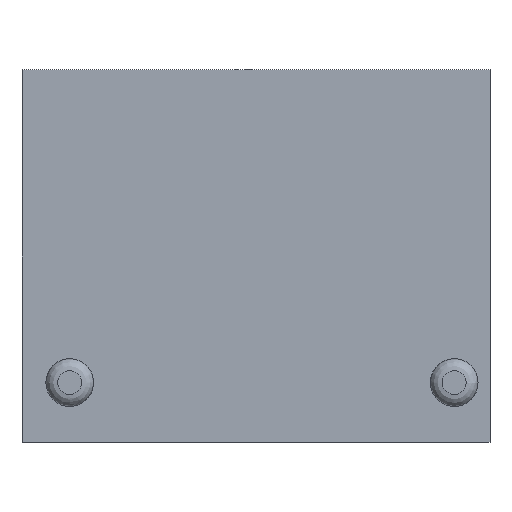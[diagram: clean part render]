
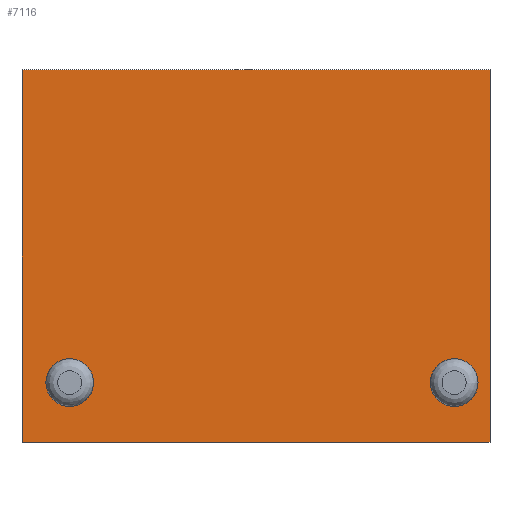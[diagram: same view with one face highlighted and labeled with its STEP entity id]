
A CAD part, left-side view. The second image highlights one B-rep face of the part: STEP entity #7116.
In plain terms, the highlighted planar face has unit normal (-1, 0, 0).
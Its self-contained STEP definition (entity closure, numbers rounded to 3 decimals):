
#271=FACE_BOUND('',#1615,.T.);
#272=FACE_BOUND('',#1616,.T.);
#483=CIRCLE('',#7984,5.137);
#486=CIRCLE('',#7989,5.137);
#761=PLANE('',#8014);
#1164=FACE_OUTER_BOUND('',#1614,.T.);
#1614=EDGE_LOOP('',(#6499,#6500,#6501,#6502));
#1615=EDGE_LOOP('',(#6503));
#1616=EDGE_LOOP('',(#6504));
#2088=LINE('',#19667,#2570);
#2091=LINE('',#19672,#2573);
#2092=LINE('',#19675,#2574);
#2094=LINE('',#19678,#2576);
#2570=VECTOR('',#9780,10.);
#2573=VECTOR('',#9785,10.);
#2574=VECTOR('',#9788,10.);
#2576=VECTOR('',#9792,10.);
#3495=VERTEX_POINT('',#18378);
#3498=VERTEX_POINT('',#18387);
#3527=VERTEX_POINT('',#19664);
#3528=VERTEX_POINT('',#19666);
#3529=VERTEX_POINT('',#19670);
#3530=VERTEX_POINT('',#19674);
#4472=EDGE_CURVE('',#3495,#3495,#483,.T.);
#4476=EDGE_CURVE('',#3498,#3498,#486,.T.);
#4522=EDGE_CURVE('',#3528,#3527,#2088,.T.);
#4525=EDGE_CURVE('',#3527,#3529,#2091,.T.);
#4526=EDGE_CURVE('',#3530,#3528,#2092,.T.);
#4528=EDGE_CURVE('',#3529,#3530,#2094,.T.);
#6499=ORIENTED_EDGE('',*,*,#4528,.T.);
#6500=ORIENTED_EDGE('',*,*,#4526,.T.);
#6501=ORIENTED_EDGE('',*,*,#4522,.T.);
#6502=ORIENTED_EDGE('',*,*,#4525,.T.);
#6503=ORIENTED_EDGE('',*,*,#4472,.T.);
#6504=ORIENTED_EDGE('',*,*,#4476,.T.);
#7116=ADVANCED_FACE('',(#1164,#271,#272),#761,.T.);
#7984=AXIS2_PLACEMENT_3D('',#18379,#9709,#9710);
#7989=AXIS2_PLACEMENT_3D('',#18388,#9720,#9721);
#8014=AXIS2_PLACEMENT_3D('',#19679,#9793,#9794);
#9709=DIRECTION('center_axis',(1.,0.,0.));
#9710=DIRECTION('ref_axis',(0.,-1.,0.));
#9720=DIRECTION('center_axis',(1.,0.,0.));
#9721=DIRECTION('ref_axis',(0.,-1.,0.));
#9780=DIRECTION('',(0.,-1.,0.));
#9785=DIRECTION('',(0.,0.,1.));
#9788=DIRECTION('',(0.,0.,-1.));
#9792=DIRECTION('',(0.,1.,0.));
#9793=DIRECTION('center_axis',(-1.,0.,0.));
#9794=DIRECTION('ref_axis',(0.,0.,1.));
#18378=CARTESIAN_POINT('',(-40.225,134.493,-25.913));
#18379=CARTESIAN_POINT('Origin',(-40.225,129.356,-25.913));
#18387=CARTESIAN_POINT('',(-40.225,-26.557,-25.913));
#18388=CARTESIAN_POINT('Origin',(-40.225,-31.694,-25.913));
#19664=CARTESIAN_POINT('',(-40.225,-46.694,-50.913));
#19666=CARTESIAN_POINT('',(-40.225,149.356,-50.913));
#19667=CARTESIAN_POINT('',(-40.225,149.356,-50.913));
#19670=CARTESIAN_POINT('',(-40.225,-46.694,105.137));
#19672=CARTESIAN_POINT('',(-40.225,-46.694,-50.913));
#19674=CARTESIAN_POINT('',(-40.225,149.356,105.137));
#19675=CARTESIAN_POINT('',(-40.225,149.356,105.137));
#19678=CARTESIAN_POINT('',(-40.225,-46.694,105.137));
#19679=CARTESIAN_POINT('Origin',(-40.225,51.331,27.112));
